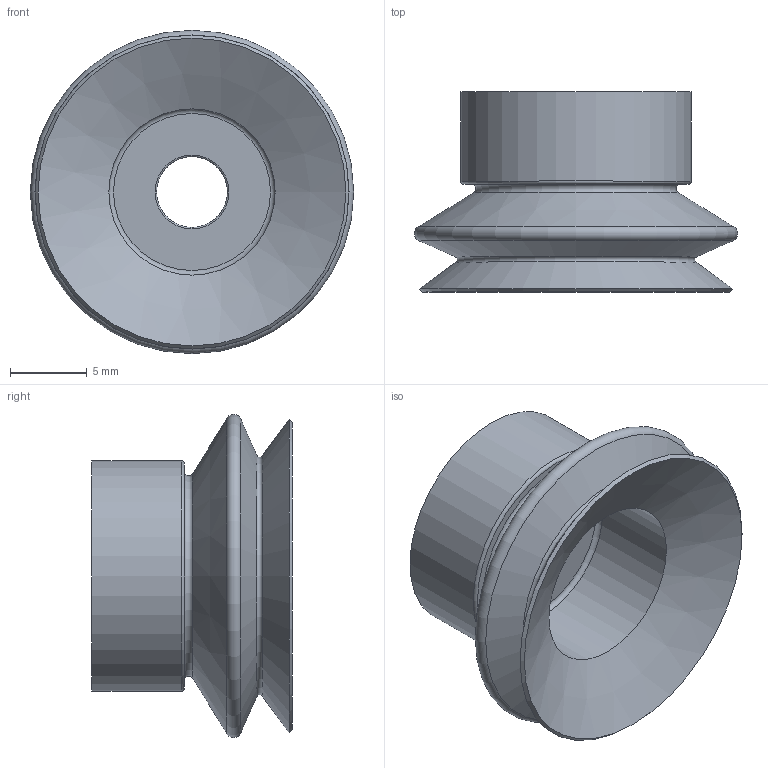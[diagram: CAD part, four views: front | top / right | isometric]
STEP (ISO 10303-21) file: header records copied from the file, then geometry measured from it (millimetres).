
FILE_DESCRIPTION(('STEP AP203'),'1');
FILE_NAME('_3D.stp','2025-02-13T07:58:28',(' '),(' '),'Spatial InterOp 3D',' ',' ');
FILE_SCHEMA(('CONFIG_CONTROL_DESIGN'));
Length unit declared in the file: millimetre
Products named in the file (1): 1
Bounding box: 21 x 13 x 21 mm (x, y, z)
Volume: 1699.4 mm3; surface area: 1745 mm2
Topology: 1 solids, 1 shells, 18 faces, 40 edges, 25 vertices
Faces by surface type: torus 7, cone 5, cylinder 3, plane 3
Full cylindrical faces by diameter (mm): 4.6 x1, 10.8 x1, 15 x1
Entity records: 412 total; most frequent: DIRECTION 74, CARTESIAN_POINT 55, AXIS2_PLACEMENT_3D 37, EDGE_LOOP 36, ORIENTED_EDGE 36, FACE_OUTER_BOUND 28, ADVANCED_FACE 18, EDGE_CURVE 18
